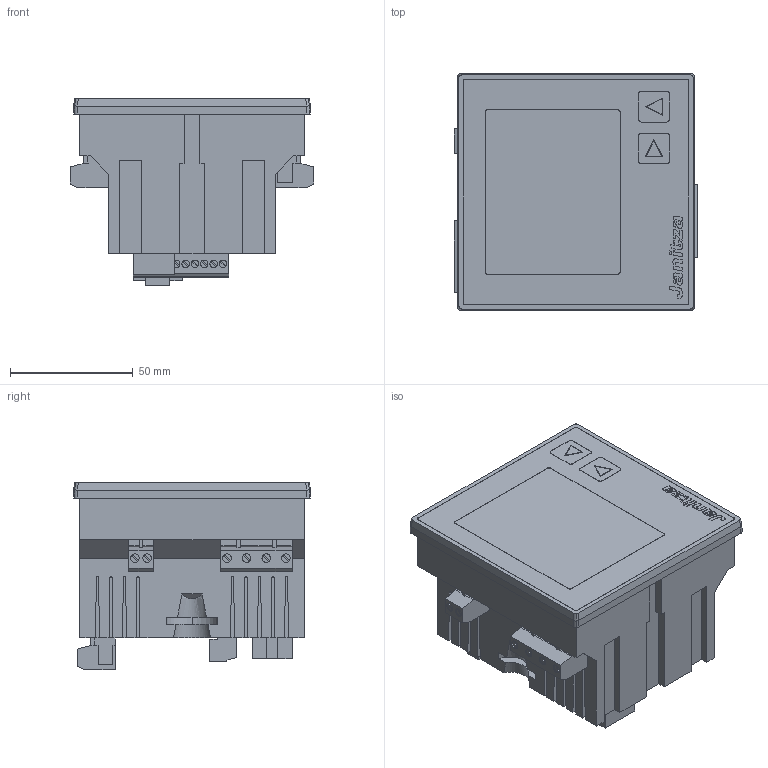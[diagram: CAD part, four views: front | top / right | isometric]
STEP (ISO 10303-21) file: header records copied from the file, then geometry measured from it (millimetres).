
FILE_DESCRIPTION((''),'2;1');
FILE_NAME('C:\Janitza\UMG96RM.stp','2013-05-02T22:06:54',('Potschkay'),(''),'Autodesk Inventor 7','Autodesk Inventor 7','');
FILE_SCHEMA(('AUTOMOTIVE_DESIGN { 1 0 10303 214 1 1 1 1 }'));
Length unit declared in the file: millimetre
Products named in the file (12): UMG96RM; Blende_UMG96; Taste2; RJ45-2; Leiste8; Leiste6; Leiste7; Klemme1; Klemme2; Klemme3; Klemme4
Assembly tree (12 placements, depth 2):
  UMG96RM
    UMG96RM
    Blende_UMG96
    Taste2  x2
    RJ45-2
    Leiste8
    Leiste6
    Leiste7
    Klemme1
    Klemme2
    Klemme3
    Klemme4
Bounding box: 99 x 96.5 x 76.5 mm (x, y, z)
Volume: 461254.2 mm3; surface area: 71430.1 mm2
Topology: 16 solids, 16 shells, 974 faces, 2640 edges, 1754 vertices
Faces by surface type: plane 691, cylinder 155, bspline 128
Entity records: 31586 total; most frequent: CARTESIAN_POINT 7369, ORIENTED_EDGE 5172, DIRECTION 4574, EDGE_CURVE 2586, VECTOR 2008, LINE 2008, VERTEX_POINT 1718, AXIS2_PLACEMENT_3D 1283
